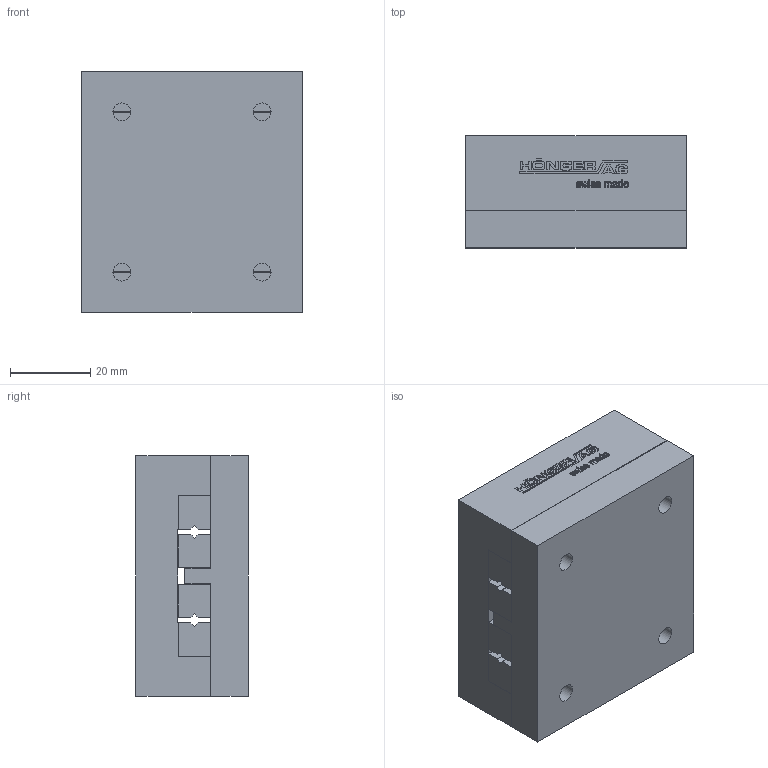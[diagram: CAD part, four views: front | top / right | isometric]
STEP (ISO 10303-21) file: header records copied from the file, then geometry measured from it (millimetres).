
FILE_DESCRIPTION(/* description */ ('STEP AP214'),/* implementation_level */ '2;1');
FILE_NAME(/* name */ 'NK 3-55-B(0)',/* time_stamp */ '2025-04-22T17:49:02+02:00',/* author */ ('License CC BY-ND 4.0'),/* organization */ ('CADENAS'),/* preprocessor_version */ 'ST-DEVELOPER v19.3',/* originating_system */ 'PARTsolutions',/* authorisation */ ' ');
FILE_SCHEMA (('AUTOMOTIVE_DESIGN {1 0 10303 214 3 1 1}'));
Length unit declared in the file: millimetre
Products named in the file (3): NK 3-55-B(0); NK 3-55-B_1; NK 3-55-B_2
Assembly tree (2 placements, depth 2):
  NK 3-55-B(0)
    NK 3-55-B_1
    NK 3-55-B_2
Bounding box: 55 x 28 x 60 mm (x, y, z)
Volume: 88914.6 mm3; surface area: 25791.7 mm2
Topology: 2 solids, 2 shells, 567 faces, 1592 edges, 1058 vertices
Faces by surface type: cylinder 302, plane 261, cone 4
Full cylindrical faces by diameter (mm): 3.242 x2, 4.5 x4, 7.5 x4
Entity records: 18505 total; most frequent: DIRECTION 3328, CARTESIAN_POINT 3216, ORIENTED_EDGE 3156, EDGE_CURVE 1578, AXIS2_PLACEMENT_3D 1184, VERTEX_POINT 1056, LINE 960, VECTOR 960
